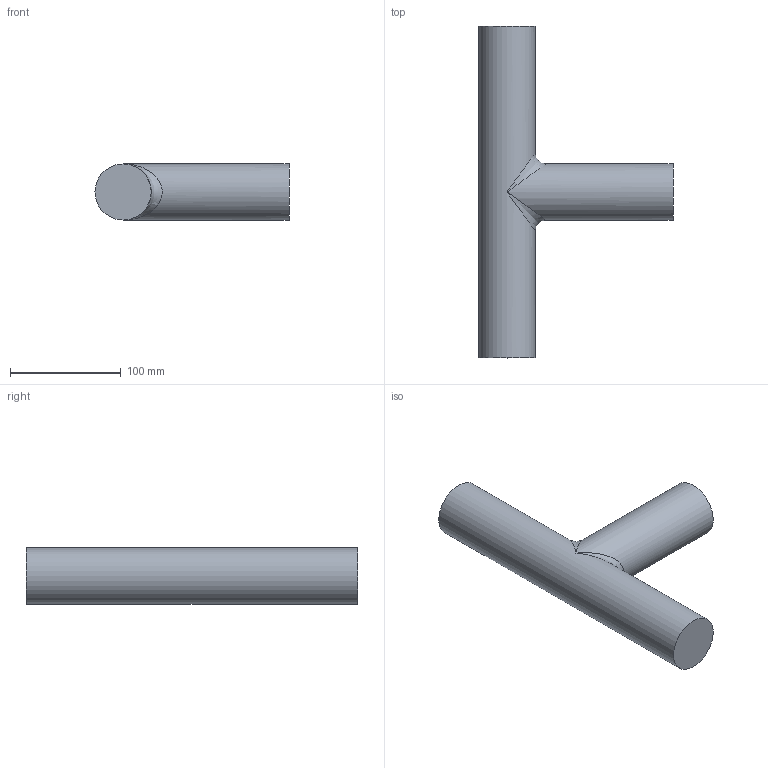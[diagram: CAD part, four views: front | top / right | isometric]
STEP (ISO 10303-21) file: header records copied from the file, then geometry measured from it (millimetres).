
FILE_DESCRIPTION(/* description */ ('STEP AP242','CAx-IF Rec.Pracs.---Representation and Presentation of Product Manufacturing Information (PMI)---4.0---2014-10-13','CAx-IF Rec.Pracs.---3D Tessellated Geometry---0.4---2014-09-14','2;1'),/* implementation_level */ '2;1');
FILE_NAME(/* name */ '64ebdde64abae6343bc46591',/* time_stamp */ '2023-08-27T23:36:07Z',/* author */ (''),/* organization */ (''),/* preprocessor_version */ 'ST-DEVELOPER v19.4',/* originating_system */ ' ',/* authorisation */ ' ');
FILE_SCHEMA (('AP242_MANAGED_MODEL_BASED_3D_ENGINEERING_MIM_LF { 1 0 10303 442 1 1 4 }'));
Length unit declared in the file: metre
Products named in the file (1): 3D-T-pipe
Bounding box: 175.4 x 300 x 50.8 mm (x, y, z)
Volume: 869722.1 mm3; surface area: 72524.8 mm2
Topology: 1 solids, 1 shells, 7 faces, 14 edges, 5 vertices
Faces by surface type: plane 3, cylinder 2, bspline 2
Full cylindrical faces by diameter (mm): 50.8 x2
Entity records: 250 total; most frequent: CARTESIAN_POINT 120, DIRECTION 26, ORIENTED_EDGE 14, AXIS2_PLACEMENT_3D 13, EDGE_LOOP 10, FACE_BOUND 10, EDGE_CURVE 7, ADVANCED_FACE 7
